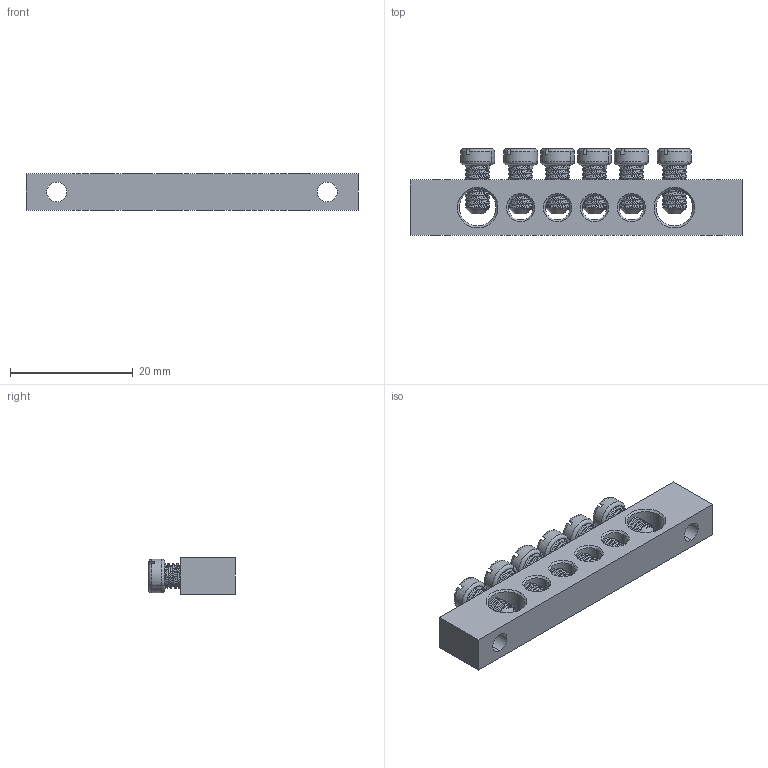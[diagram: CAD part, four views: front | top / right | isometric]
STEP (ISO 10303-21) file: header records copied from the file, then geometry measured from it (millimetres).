
FILE_DESCRIPTION (( 'STEP AP214' ), '1' );
FILE_NAME ('277986 OptiKit BB-PEN-S-6-6õ9-2.STEP', '2020-02-07T06:33:51', ( '' ), ( '' ), 'SwSTEP 2.0', 'SolidWorks 2018', '' );
FILE_SCHEMA (( 'AUTOMOTIVE_DESIGN' ));
Length unit declared in the file: millimetre
Products named in the file (3): Âèíò ì4; Øèíà 6õ9 6 2; 277986 OptiKit BB-PEN-S-6-6õ9-2
Assembly tree (7 placements, depth 2):
  277986 OptiKit BB-PEN-S-6-6õ9-2
    Øèíà 6õ9 6 2
    Âèíò ì4  x6
Bounding box: 54 x 14.1 x 6 mm (x, y, z)
Volume: 2823.7 mm3; surface area: 3570.2 mm2
Topology: 7 solids, 7 shells, 478 faces, 1326 edges, 856 vertices
Faces by surface type: plane 168, cylinder 166, cone 78, torus 42, bspline 24
Entity records: 6507 total; most frequent: CARTESIAN_POINT 3126, ORIENTED_EDGE 678, DIRECTION 614, EDGE_CURVE 339, AXIS2_PLACEMENT_3D 239, VERTEX_POINT 216, EDGE_LOOP 157, LINE 136
